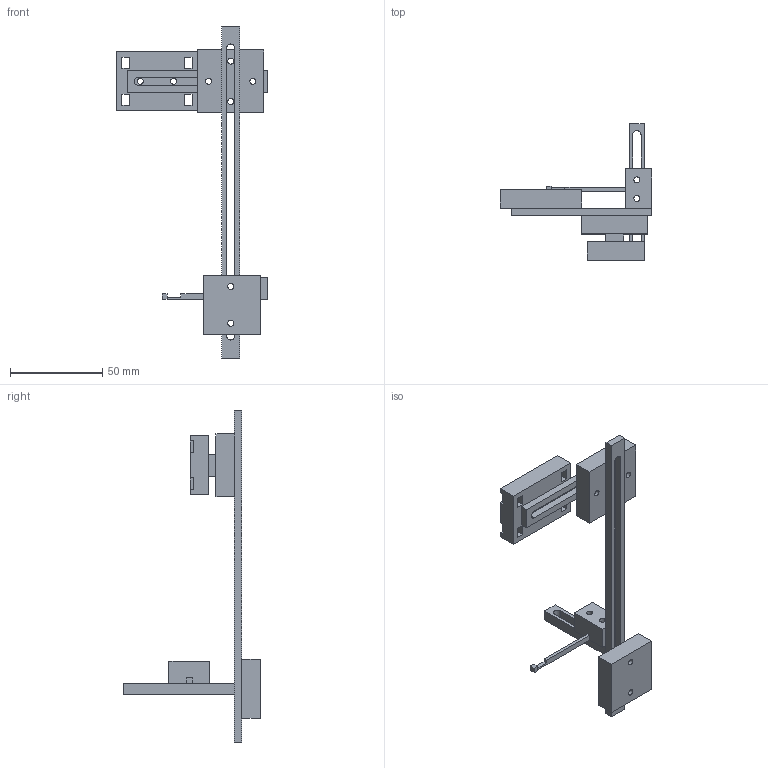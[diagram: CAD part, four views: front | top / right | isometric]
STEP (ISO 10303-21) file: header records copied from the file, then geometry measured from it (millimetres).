
FILE_DESCRIPTION(('Open CASCADE Model'),'2;1');
FILE_NAME('Open CASCADE Shape Model','2026-11-08T05:54:16',('Author'),( 'Open CASCADE'),'Open CASCADE STEP processor 7.8','Open CASCADE 7.8' ,'Unknown');
FILE_SCHEMA(('AUTOMOTIVE_DESIGN { 1 0 10303 214 1 1 1 1 }'));
Length unit declared in the file: millimetre
Products named in the file (7): moving_marker_holder; strap_mount; horizontal_bar; corner; vertical_rail; depth_carriage; target_arm
Assembly tree (6 placements, depth 2):
  moving_marker_holder
    strap_mount
    horizontal_bar
    corner
    vertical_rail
    depth_carriage
    target_arm
Bounding box: 82 x 74 x 180 mm (x, y, z)
Volume: 46278.1 mm3; surface area: 24382.1 mm2
Topology: 6 solids, 6 shells, 102 faces, 288 edges, 192 vertices
Faces by surface type: plane 86, cylinder 16
Full cylindrical faces by diameter (mm): 3.3 x10
Entity records: 7238 total; most frequent: CARTESIAN_POINT 1165, DIRECTION 1114, LINE 800, VECTOR 800, ORIENTED_EDGE 576, PCURVE 576, DEFINITIONAL_REPRESENTATION 576, EDGE_CURVE 288
